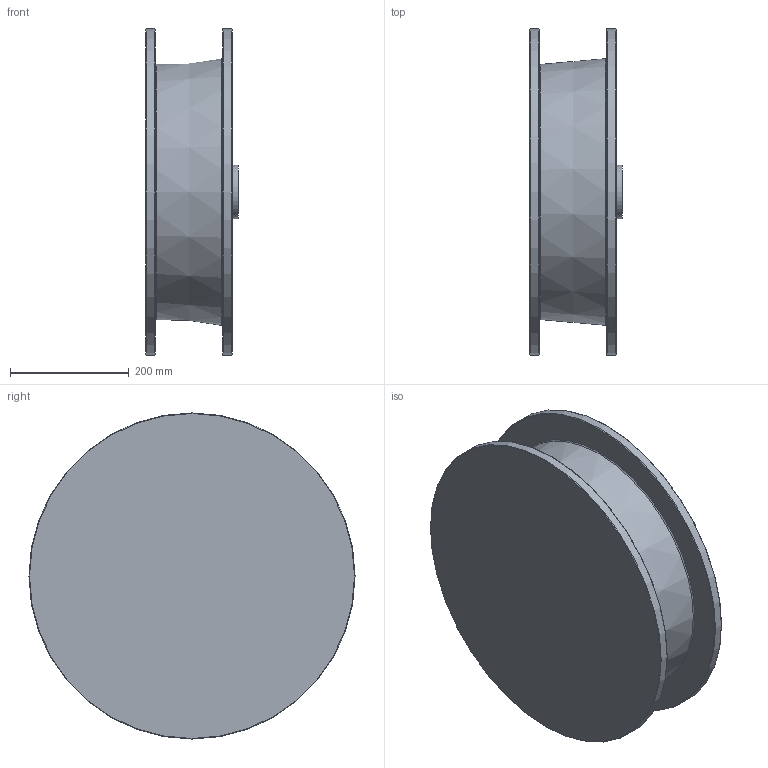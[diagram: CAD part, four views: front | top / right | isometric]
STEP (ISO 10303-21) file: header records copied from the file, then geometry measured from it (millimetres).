
FILE_DESCRIPTION((''),'2;1');
FILE_NAME('D:\PAWEŁ\ZLECENIA\2011 DualSystem\Przekładnie DR\DR160\STEP\250_B5_L145,5.stp','2012-06-11T13:03:42',('admin'),(''),'Autodesk Inventor 2009','Autodesk Inventor 2009','');
FILE_SCHEMA(('AUTOMOTIVE_DESIGN { 1 0 10303 214 1 1 1 1 }'));
Length unit declared in the file: millimetre
Products named in the file (1): 250_B5_L145,5
Bounding box: 156 x 550 x 550 mm (x, y, z)
Volume: 6556989.2 mm3; surface area: 1088722.8 mm2
Topology: 1 solids, 1 shells, 42 faces, 70 edges, 44 vertices
Faces by surface type: bspline 18, plane 11, cylinder 6, torus 5, cone 2
Full cylindrical faces by diameter (mm): 90 x1, 437.954 x1, 450 x1, 550 x2
Entity records: 1131 total; most frequent: CARTESIAN_POINT 401, DIRECTION 136, ORIENTED_EDGE 96, EDGE_LOOP 78, AXIS2_PLACEMENT_3D 63, EDGE_CURVE 48, VERTEX_POINT 44, FACE_OUTER_BOUND 42
